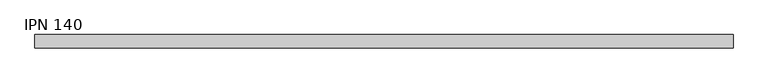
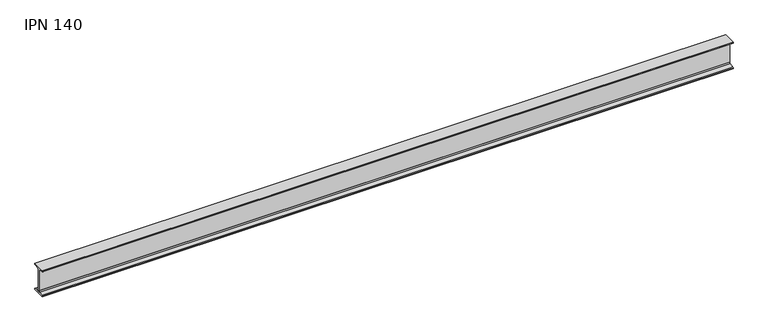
"""IFC4 building model written with IfcOpenShell, lengths in millimetres: beam geometry, IPN - Secciones en I con alas cónicas : IPN 140."""

from ifc_helpers import new_model, si_unit, point, frame, frame_2d, origin, place, context, project, spatial, polyline, circle_curve, trimmed, segment, composite_curve, outline, extrude, source, transform, mapped, element, save


def ipn_140_57c813fd(model_context):
    return source(origin(), model_context, "Body", "SweptSolid", [
        extrude(outline(composite_curve([segment(polyline([(33.0, 70.0), (33.0, 66.6671583)]), True, "CONTINUOUS"), segment(trimmed(circle_curve(frame_2d((29.6, 66.6671583)), 3.4), [point((33.0, 66.6671583))], [point((30.0714027, 63.2999964))], False, "CARTESIAN"), True, "CONTINUOUS"), segment(polyline([(30.0714027, 63.2999964), (7.7597073, 60.176359)]), True, "CONTINUOUS"), segment(trimmed(circle_curve(frame_2d((8.55, 54.5314111)), 5.7), [point((7.7597073, 60.176359))], [point((2.85, 54.5314111))], True, "CARTESIAN"), True, "CONTINUOUS"), segment(polyline([(2.85, 54.5314111), (2.85, -54.5314111)]), True, "CONTINUOUS"), segment(trimmed(circle_curve(frame_2d((8.55, -54.5314111)), 5.7), [point((2.85, -54.5314111))], [point((7.7597073, -60.176359))], True, "CARTESIAN"), True, "CONTINUOUS"), segment(polyline([(7.7597073, -60.176359), (30.0714027, -63.2999964)]), True, "CONTINUOUS"), segment(trimmed(circle_curve(frame_2d((29.6, -66.6671583)), 3.4), [point((30.0714027, -63.2999964))], [point((33.0, -66.6671583))], False, "CARTESIAN"), True, "CONTINUOUS"), segment(polyline([(33.0, -66.6671583), (33.0, -70.0), (-33.0, -70.0), (-33.0, -66.6671583)]), True, "CONTINUOUS"), segment(trimmed(circle_curve(frame_2d((-29.6, -66.6671583)), 3.4), [point((-33.0, -66.6671583))], [point((-30.0714027, -63.2999964))], False, "CARTESIAN"), True, "CONTINUOUS"), segment(polyline([(-30.0714027, -63.2999964), (-7.7597073, -60.176359)]), True, "CONTINUOUS"), segment(trimmed(circle_curve(frame_2d((-8.55, -54.5314111)), 5.7), [point((-7.7597073, -60.176359))], [point((-2.85, -54.5314111))], True, "CARTESIAN"), True, "CONTINUOUS"), segment(polyline([(-2.85, -54.5314111), (-2.85, 54.5314111)]), True, "CONTINUOUS"), segment(trimmed(circle_curve(frame_2d((-8.55, 54.5314111)), 5.7), [point((-2.85, 54.5314111))], [point((-7.7597073, 60.176359))], True, "CARTESIAN"), True, "CONTINUOUS"), segment(polyline([(-7.7597073, 60.176359), (-30.0714027, 63.2999964)]), True, "CONTINUOUS"), segment(trimmed(circle_curve(frame_2d((-29.6, 66.6671583)), 3.4), [point((-30.0714027, 63.2999964))], [point((-33.0, 66.6671583))], False, "CARTESIAN"), True, "CONTINUOUS"), segment(polyline([(-33.0, 66.6671583), (-33.0, 70.0), (33.0, 70.0)]), True, "CONTINUOUS")], self_intersect=False)), frame((-1740.0, 0.0, 0.0), z_axis=(1.0, 0.0, 0.0), x_axis=(0.0, 1.0, 0.0)), (0.0, 0.0, 1.0), 3479.0),
    ])


if __name__ == "__main__":
    model = new_model("IFC4")
    model_context = context("Model", 3, world=origin())
    ifc_project = project(units=[si_unit("LENGTHUNIT", "METRE", prefix="MILLI")], contexts=[model_context])
    site = spatial("IfcSite", under=ifc_project)
    building = spatial("IfcBuilding", under=site)
    placement = place(None, origin())
    ipn_140_shape = ipn_140_57c813fd(model_context)
    element("IfcBeam", 1, ObjectType="IPN - Secciones en I con alas cónicas : IPN 140", at=placement, inside=building, context=model_context, shape_type="MappedRepresentation", body=[
        mapped(ipn_140_shape, transform((0.0, 0.0, 0.0), x_axis=(1.0, 0.0, 0.0), y_axis=(0.0, 1.0, 0.0), z_axis=(0.0, 0.0, 1.0))),
    ])
    save(model, "model.ifc")
